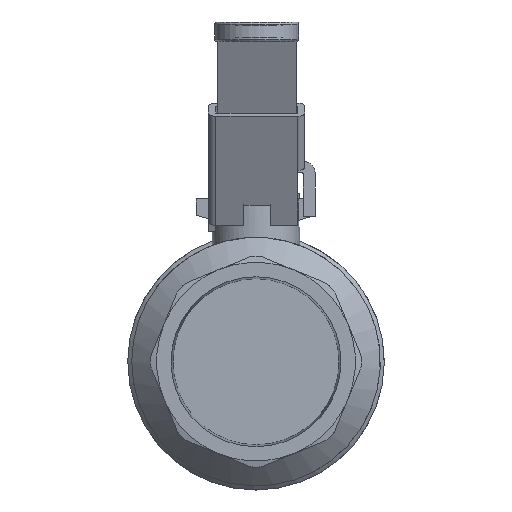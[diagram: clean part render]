
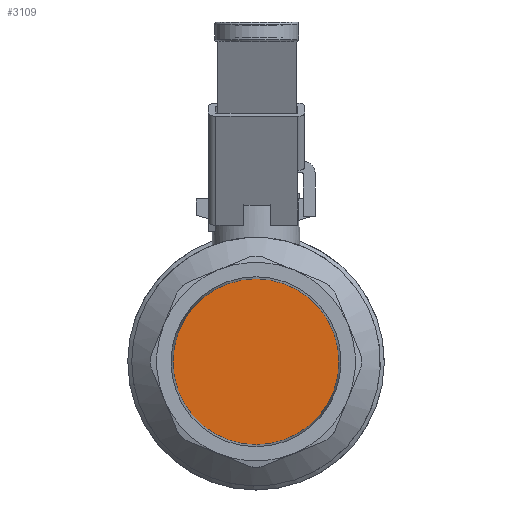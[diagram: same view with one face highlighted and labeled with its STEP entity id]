
A CAD part, left-side view. The second image highlights one B-rep face of the part: STEP entity #3109.
In plain terms, the highlighted free-form (B-spline) face has degree [1, 1] with [2, 2] control points.
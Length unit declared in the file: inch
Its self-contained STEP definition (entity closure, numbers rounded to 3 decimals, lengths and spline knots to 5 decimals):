
#3093=CARTESIAN_POINT('',(-0.0191,0.05824,1.59977));
#3094=CARTESIAN_POINT('',(-0.0191,-1.72154,1.59977));
#3095=CARTESIAN_POINT('',(-0.0191,0.05824,-0.18001));
#3096=CARTESIAN_POINT('',(-0.0191,-1.72154,-0.18001));
#3097=B_SPLINE_SURFACE_WITH_KNOTS('',1,1,((#3093,#3095),(#3094,#3096)),.UNSPECIFIED.,.F.,.F.,.U.,(2,2),(2,2),(0.0,1.77978),(0.0,1.77978),.UNSPECIFIED.);
#3098=CARTESIAN_POINT('',(-0.0191,0.05824,0.70988));
#3099=VERTEX_POINT('',#3098);
#3100=CARTESIAN_POINT('',(-0.0191,-0.83165,0.70988));
#3101=DIRECTION('',(1.0,0.0,0.0));
#3102=DIRECTION('',(0.0,1.0,0.0));
#3103=AXIS2_PLACEMENT_3D('',#3100,#3101,#3102);
#3104=CIRCLE('',#3103,0.88989);
#3105=EDGE_CURVE('',#3099,#3099,#3104,.T.);
#3106=ORIENTED_EDGE('',*,*,#3105,.F.);
#3107=EDGE_LOOP('',(#3106));
#3108=FACE_OUTER_BOUND('',#3107,.T.);
#3109=ADVANCED_FACE('',(#3108),#3097,.F.);
